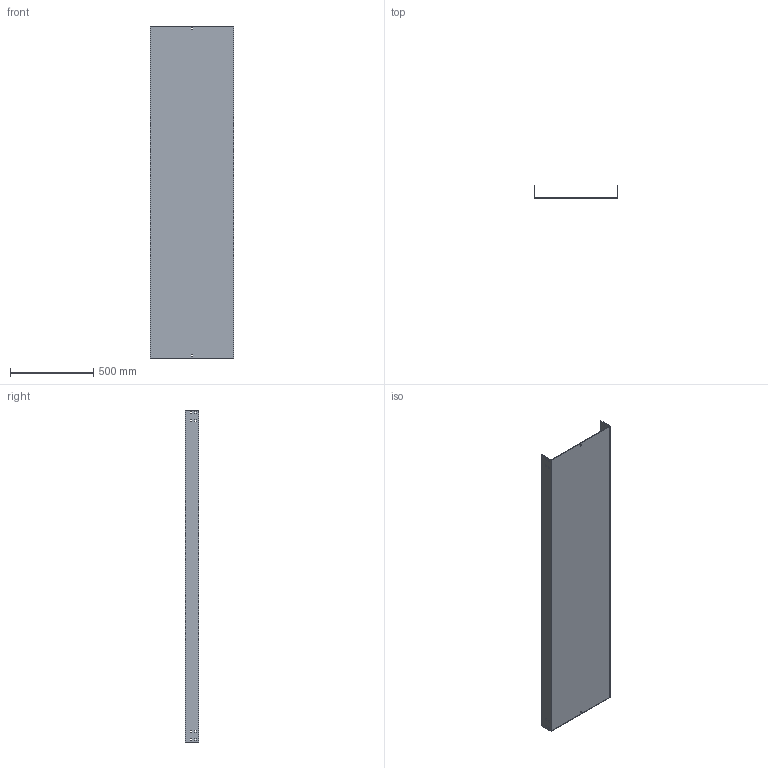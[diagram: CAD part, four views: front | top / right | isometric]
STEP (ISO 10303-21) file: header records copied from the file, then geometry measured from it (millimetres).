
FILE_DESCRIPTION (( 'STEP AP214' ), '1' );
FILE_NAME ('03F2C500.step', '2025-02-21T13:32:00', ( '' ), ( '' ), 'SwSTEP 2.0', 'SolidWorks 2023', '' );
FILE_SCHEMA (( 'AUTOMOTIVE_DESIGN' ));
Length unit declared in the file: millimetre
Products named in the file (1): 03F2C500
Bounding box: 504 x 79 x 2000 mm (x, y, z)
Volume: 4580670.5 mm3; surface area: 2638232 mm2
Topology: 1 solids, 1 shells, 82 faces, 240 edges, 160 vertices
Faces by surface type: plane 82
Entity records: 2759 total; most frequent: CARTESIAN_POINT 483, ORIENTED_EDGE 480, DIRECTION 406, VECTOR 240, EDGE_CURVE 240, LINE 240, VERTEX_POINT 160, EDGE_LOOP 118
